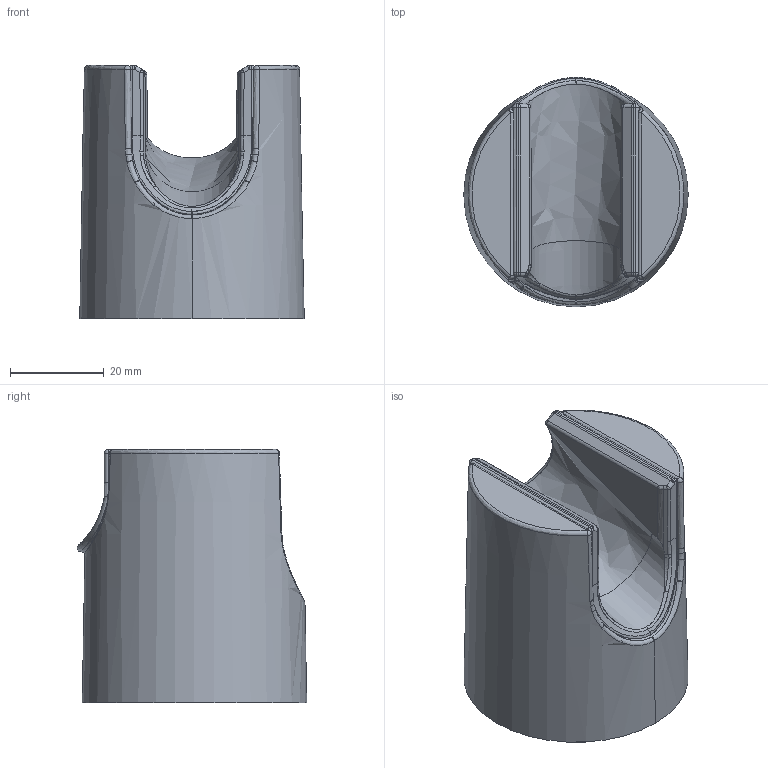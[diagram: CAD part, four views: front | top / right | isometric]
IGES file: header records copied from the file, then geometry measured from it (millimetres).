
Start section:  PTC IGES file: hook-web.igs
Global section: file name: hook-web.igs; native system: Creo Parametric by PTC Inc.; preprocessor: 2015290; author: Uporabnik; organization: Unknown; date: 20171107.103832; units: millimetre
Bounding box: 47.89 x 48.95 x 54 mm (x, y, z)
Surface area: 11932 mm2 (no closed solid volume)
Topology: 0 solids, 0 shells, 138 faces, 682 edges, 672 vertices
Faces by surface type: bspline 83, revolution 55
